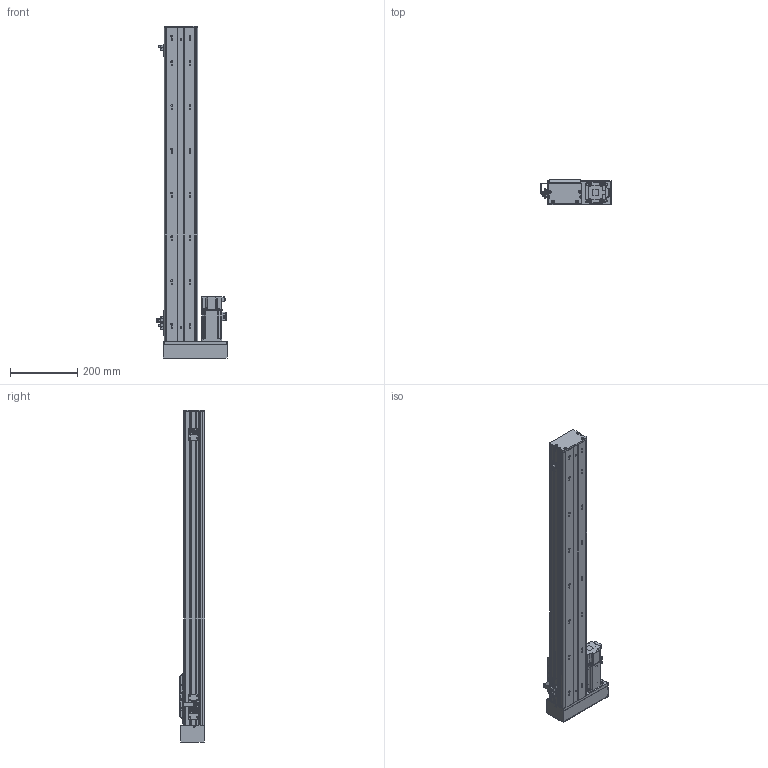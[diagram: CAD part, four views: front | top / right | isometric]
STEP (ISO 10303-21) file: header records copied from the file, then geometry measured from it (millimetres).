
FILE_DESCRIPTION (( 'STEP AP203' ), '1' );
FILE_NAME ('BOSW100-750-1610-1P-LM-M400W-O-S3（方程式2016）.step', '2020-10-10T06:58:34', ( '' ), ( '' ), 'SwSTEP 2.0', 'SolidWorks 2016', '' );
FILE_SCHEMA (( 'CONFIG_CONTROL_DESIGN' ));
Length unit declared in the file: millimetre
Products named in the file (14): BOSW&TW-100-1P-賑雄釱欶; AIMS(W)-100-LM&RM-肮祭謫欶; 放大器内置U型微型光电传感器PM-L65; S400W(SMA-L040); BOSW100-750-1610-1P-LM-M400W-O-S3（方程式2016）; BOSW&TW-100-俋离覜茼え; BOSW-100-綴裔啣; BOSW-100-1P-DM-宽轨-钢带-750客户图纸; 俋境嫖覜嘐隅啣; 新结构AIMSW-100-1P-宽&高轨共用-滑动座上组件; BOSW-100-1P-DM-宽轨-侧板-750客户图纸; boS-100-LM&RM-三菱M400W马达板-宽轨; BOSW-100-1P-DM-750諦誧芞; BOSW&TW-100-詩湍揤沭(陔賦凳)
Assembly tree (19 placements, depth 2):
  BOSW100-750-1610-1P-LM-M400W-O-S3（方程式2016）
    BOSW-100-1P-DM-750諦誧芞
    BOSW-100-綴裔啣
    新结构AIMSW-100-1P-宽&高轨共用-滑动座上组件
    S400W(SMA-L040)
    BOSW&TW-100-詩湍揤沭(陔賦凳)  x2
    BOSW&TW-100-1P-賑雄釱欶
    BOSW&TW-100-俋离覜茼え
    俋境嫖覜嘐隅啣  x3
    放大器内置U型微型光电传感器PM-L65  x3
    BOSW-100-1P-DM-宽轨-侧板-750客户图纸  x2
    BOSW-100-1P-DM-宽轨-钢带-750客户图纸
    AIMS(W)-100-LM&RM-肮祭謫欶
    boS-100-LM&RM-三菱M400W马达板-宽轨
Bounding box: 207.9 x 75 x 986 mm (x, y, z)
Volume: 2197132.2 mm3; surface area: 1030385 mm2
Topology: 19 solids, 20 shells, 2549 faces, 6735 edges, 4299 vertices
Faces by surface type: plane 1245, cylinder 818, bspline 271, cone 167, torus 36, sphere 12
Entity records: 70148 total; most frequent: CARTESIAN_POINT 20968, ORIENTED_EDGE 10010, DIRECTION 9705, EDGE_CURVE 5005, AXIS2_PLACEMENT_3D 3449, VERTEX_POINT 3201, LINE 2807, VECTOR 2807
